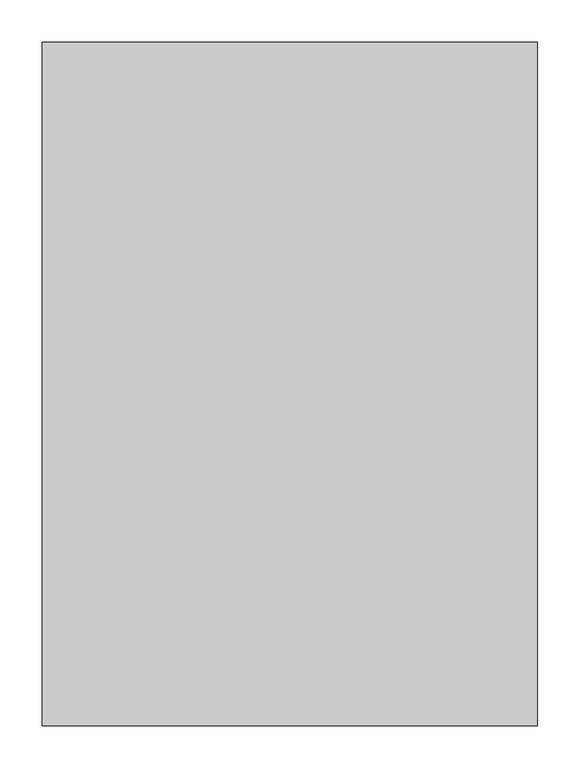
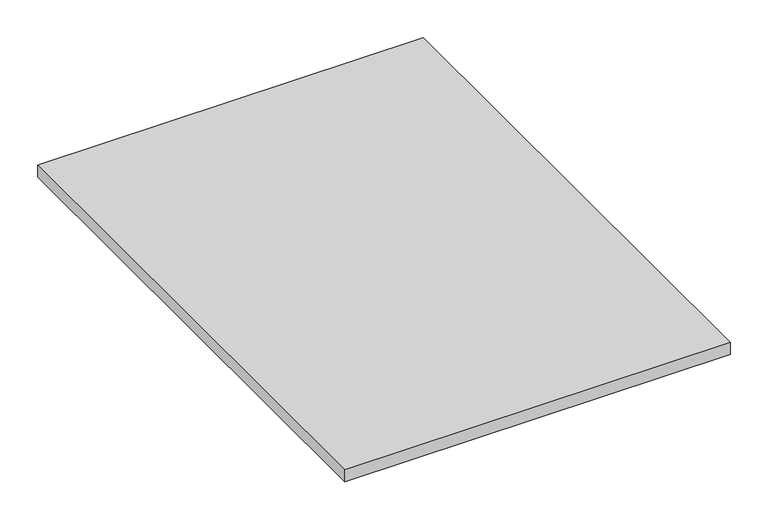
"""IFC4 building model written with IfcOpenShell, lengths in millimetres: proxy geometry, FOUNDATION^STANDARD CREDENZA_WEBSITE DETAIL-RIGHT END DOOR."""

from ifc_helpers import new_model, si_unit, frame, origin, place, context, project, spatial, polyline, outline, extrude, source, transform, mapped, element, save


def generic_models_72e80778(model_context):
    return source(origin(), model_context, "Body", "SweptSolid", [
        extrude(outline(polyline([(1810.3453125, 38.1), (1810.3453125, 848.51875), (2397.91875, 848.51875), (2397.91875, 38.1), (1810.3453125, 38.1)])), frame((0.0, 0.0, 615.95), z_axis=(0.0, 0.0, 1.0), x_axis=(1.0, 0.0, 0.0)), (0.0, 0.0, 1.0), 19.05),
    ])


if __name__ == "__main__":
    model = new_model("IFC4")
    model_context = context("Model", 3, world=origin())
    ifc_project = project(units=[si_unit("LENGTHUNIT", "METRE", prefix="MILLI")], contexts=[model_context])
    site = spatial("IfcSite", under=ifc_project)
    building = spatial("IfcBuilding", under=site)
    placement = place(None, origin())
    generic_models_shape = generic_models_72e80778(model_context)
    element("IfcBuildingElementProxy", 1, Name="FOUNDATION^STANDARD CREDENZA_WEBSITE DETAIL-RIGHT END DOOR", ObjectType="FOUNDATION^STANDARD CREDENZA_WEBSITE DETAIL-RIGHT END DOOR", at=placement, inside=building, context=model_context, shape_type="MappedRepresentation", body=[
        mapped(generic_models_shape, transform((0.0, 0.0, 0.0), x_axis=(1.0, 0.0, 0.0), y_axis=(0.0, 1.0, 0.0), z_axis=(0.0, 0.0, 1.0))),
    ])
    save(model, "model.ifc")
